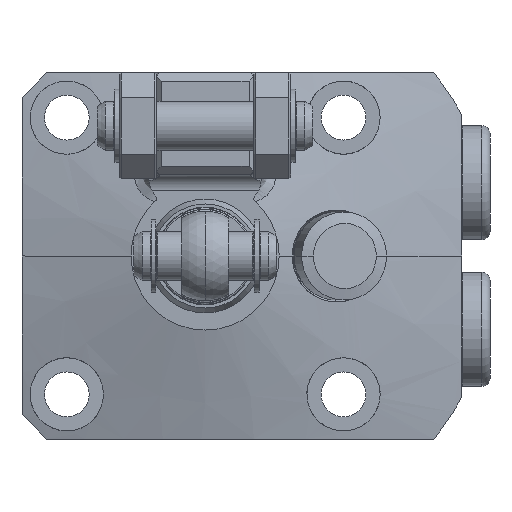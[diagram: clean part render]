
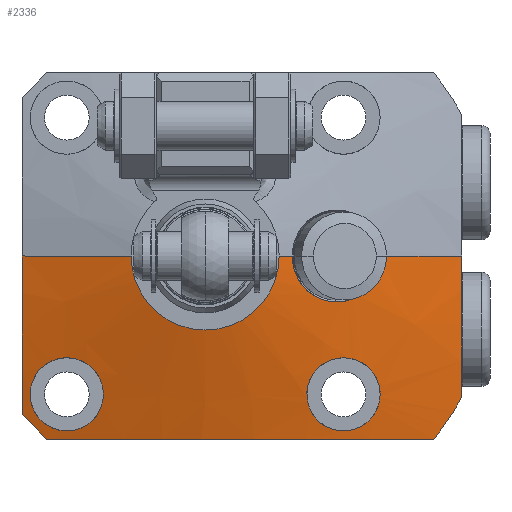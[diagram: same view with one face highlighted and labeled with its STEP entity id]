
A CAD part, left-side view. The second image highlights one B-rep face of the part: STEP entity #2336.
In plain terms, the highlighted conical face has half-angle 75 degrees and reference radius 36.259 mm.
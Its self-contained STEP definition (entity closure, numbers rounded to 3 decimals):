
#1729=FACE_BOUND('',#3142,.T.);
#1730=FACE_BOUND('',#3143,.T.);
#1731=FACE_BOUND('',#3144,.T.);
#1785=B_SPLINE_CURVE_WITH_KNOTS('',3,(#11554,#11555,#11556,#11557,#11558,
#11559),.UNSPECIFIED.,.F.,.F.,(4,2,4),(0.,0.5,1.),.UNSPECIFIED.);
#1787=B_SPLINE_CURVE_WITH_KNOTS('',3,(#11651,#11652,#11653,#11654,#11655,
#11656,#11657,#11658,#11659,#11660),.UNSPECIFIED.,.F.,.F.,(4,2,2,2,4),(0.,
0.25,0.5,0.75,1.),.UNSPECIFIED.);
#1788=B_SPLINE_CURVE_WITH_KNOTS('',3,(#11669,#11670,#11671,#11672,#11673,
#11674,#11675,#11676,#11677,#11678),.UNSPECIFIED.,.F.,.F.,(4,2,2,2,4),(0.,
0.25,0.5,0.75,1.),.UNSPECIFIED.);
#1791=B_SPLINE_CURVE_WITH_KNOTS('',3,(#11838,#11839,#11840,#11841,#11842,
#11843,#11844,#11845,#11846,#11847),.UNSPECIFIED.,.F.,.F.,(4,2,2,2,4),(0.,
0.25,0.5,0.75,1.),.UNSPECIFIED.);
#1792=B_SPLINE_CURVE_WITH_KNOTS('',3,(#11848,#11849,#11850,#11851,#11852,
#11853,#11854,#11855,#11856,#11857),.UNSPECIFIED.,.F.,.F.,(4,2,2,2,4),(0.,
0.25,0.5,0.75,1.),.UNSPECIFIED.);
#1793=B_SPLINE_CURVE_WITH_KNOTS('',3,(#11863,#11864,#11865,#11866),
 .UNSPECIFIED.,.F.,.F.,(4,4),(0.,1.),.UNSPECIFIED.);
#1794=B_SPLINE_CURVE_WITH_KNOTS('',3,(#11868,#11869,#11870,#11871),
 .UNSPECIFIED.,.F.,.F.,(4,4),(0.,1.),.UNSPECIFIED.);
#1795=B_SPLINE_CURVE_WITH_KNOTS('',3,(#11873,#11874,#11875,#11876,#11877,
#11878,#11879,#11880),.UNSPECIFIED.,.F.,.F.,(4,2,2,4),(0.,0.5,0.75,1.),
 .UNSPECIFIED.);
#1796=B_SPLINE_CURVE_WITH_KNOTS('',3,(#11884,#11885,#11886,#11887),
 .UNSPECIFIED.,.F.,.F.,(4,4),(0.,1.),.UNSPECIFIED.);
#1797=B_SPLINE_CURVE_WITH_KNOTS('',3,(#11890,#11891,#11892,#11893,#11894,
#11895),.UNSPECIFIED.,.F.,.F.,(4,2,4),(0.,0.5,1.),.UNSPECIFIED.);
#2336=ADVANCED_FACE('',(#1729,#1730,#1731),#2481,.T.);
#2481=CONICAL_SURFACE('',#8091,36.259,75.);
#3142=EDGE_LOOP('',(#5102,#5103));
#3143=EDGE_LOOP('',(#5104,#5105));
#3144=EDGE_LOOP('',(#5106,#5107,#5108,#5109,#5110,#5111,#5112,#5113,#5114,
#5115,#5116));
#3533=LINE('',#11861,#3848);
#3534=LINE('',#11889,#3849);
#3535=LINE('',#11897,#3850);
#3848=VECTOR('',#9884,1.);
#3849=VECTOR('',#9887,1.);
#3850=VECTOR('',#9888,1.);
#5102=ORIENTED_EDGE('',*,*,#6776,.T.);
#5103=ORIENTED_EDGE('',*,*,#6705,.T.);
#5104=ORIENTED_EDGE('',*,*,#6777,.T.);
#5105=ORIENTED_EDGE('',*,*,#6709,.T.);
#5106=ORIENTED_EDGE('',*,*,#6778,.T.);
#5107=ORIENTED_EDGE('',*,*,#6779,.T.);
#5108=ORIENTED_EDGE('',*,*,#6780,.F.);
#5109=ORIENTED_EDGE('',*,*,#6781,.F.);
#5110=ORIENTED_EDGE('',*,*,#6782,.F.);
#5111=ORIENTED_EDGE('',*,*,#6783,.T.);
#5112=ORIENTED_EDGE('',*,*,#6784,.T.);
#5113=ORIENTED_EDGE('',*,*,#6785,.F.);
#5114=ORIENTED_EDGE('',*,*,#6664,.F.);
#5115=ORIENTED_EDGE('',*,*,#6786,.F.);
#5116=ORIENTED_EDGE('',*,*,#6787,.F.);
#5935=VERTEX_POINT('',#11553);
#5936=VERTEX_POINT('',#11560);
#5970=VERTEX_POINT('',#11661);
#5971=VERTEX_POINT('',#11662);
#5974=VERTEX_POINT('',#11679);
#5975=VERTEX_POINT('',#11680);
#6032=VERTEX_POINT('',#11859);
#6033=VERTEX_POINT('',#11860);
#6034=VERTEX_POINT('',#11862);
#6035=VERTEX_POINT('',#11867);
#6036=VERTEX_POINT('',#11872);
#6037=VERTEX_POINT('',#11881);
#6038=VERTEX_POINT('',#11883);
#6039=VERTEX_POINT('',#11888);
#6040=VERTEX_POINT('',#11896);
#6664=EDGE_CURVE('',#5935,#5936,#1785,.T.);
#6705=EDGE_CURVE('',#5970,#5971,#1787,.T.);
#6709=EDGE_CURVE('',#5974,#5975,#1788,.T.);
#6776=EDGE_CURVE('',#5971,#5970,#1791,.T.);
#6777=EDGE_CURVE('',#5975,#5974,#1792,.T.);
#6778=EDGE_CURVE('',#6032,#6033,#7345,.T.);
#6779=EDGE_CURVE('',#6033,#6034,#3533,.T.);
#6780=EDGE_CURVE('',#6035,#6034,#1793,.T.);
#6781=EDGE_CURVE('',#6036,#6035,#1794,.T.);
#6782=EDGE_CURVE('',#6037,#6036,#1795,.T.);
#6783=EDGE_CURVE('',#6037,#6038,#7346,.T.);
#6784=EDGE_CURVE('',#6038,#6039,#1796,.T.);
#6785=EDGE_CURVE('',#5936,#6039,#3534,.T.);
#6786=EDGE_CURVE('',#6040,#5935,#1797,.T.);
#6787=EDGE_CURVE('',#6032,#6040,#3535,.T.);
#7345=CIRCLE('',#8089,9.098);
#7346=CIRCLE('',#8090,36.);
#8089=AXIS2_PLACEMENT_3D('',#11858,#9882,#9883);
#8090=AXIS2_PLACEMENT_3D('',#11882,#9885,#9886);
#8091=AXIS2_PLACEMENT_3D('',#11898,#9889,#9890);
#9882=DIRECTION('',(1.,0.,0.));
#9883=DIRECTION('',(0.,0.,1.));
#9884=DIRECTION('',(0.259,0.966,0.));
#9885=DIRECTION('',(-1.,0.,0.));
#9886=DIRECTION('',(0.,1.,0.));
#9887=DIRECTION('',(0.259,-0.966,0.));
#9888=DIRECTION('',(0.259,-0.966,0.));
#9889=DIRECTION('',(1.,0.,0.));
#9890=DIRECTION('',(0.,-1.,0.));
#11553=CARTESIAN_POINT('',(-22.852,-16.154,-5.65));
#11554=CARTESIAN_POINT('',(-22.852,-16.154,-5.65));
#11555=CARTESIAN_POINT('',(-22.486,-17.601,-5.65));
#11556=CARTESIAN_POINT('',(-22.174,-19.028,-5.038));
#11557=CARTESIAN_POINT('',(-21.746,-21.071,-2.956));
#11558=CARTESIAN_POINT('',(-21.63,-21.676,-1.493));
#11559=CARTESIAN_POINT('',(-21.63,-21.676,0.));
#11560=CARTESIAN_POINT('',(-21.63,-21.676,0.));
#11651=CARTESIAN_POINT('',(-20.094,-17.,-21.5));
#11652=CARTESIAN_POINT('',(-20.292,-15.805,-21.5));
#11653=CARTESIAN_POINT('',(-20.574,-14.656,-21.012));
#11654=CARTESIAN_POINT('',(-21.183,-13.011,-19.382));
#11655=CARTESIAN_POINT('',(-21.513,-12.519,-18.237));
#11656=CARTESIAN_POINT('',(-22.023,-12.482,-15.906));
#11657=CARTESIAN_POINT('',(-22.198,-12.947,-14.706));
#11658=CARTESIAN_POINT('',(-22.205,-14.631,-12.99));
#11659=CARTESIAN_POINT('',(-22.039,-15.816,-12.5));
#11660=CARTESIAN_POINT('',(-21.784,-17.,-12.5));
#11661=CARTESIAN_POINT('',(-20.094,-17.,-21.5));
#11662=CARTESIAN_POINT('',(-21.784,-17.,-12.5));
#11669=CARTESIAN_POINT('',(-20.094,21.5,-17.));
#11670=CARTESIAN_POINT('',(-20.292,21.5,-15.805));
#11671=CARTESIAN_POINT('',(-20.574,21.012,-14.656));
#11672=CARTESIAN_POINT('',(-21.183,19.382,-13.011));
#11673=CARTESIAN_POINT('',(-21.513,18.237,-12.519));
#11674=CARTESIAN_POINT('',(-22.023,15.906,-12.482));
#11675=CARTESIAN_POINT('',(-22.198,14.706,-12.947));
#11676=CARTESIAN_POINT('',(-22.205,12.99,-14.631));
#11677=CARTESIAN_POINT('',(-22.039,12.5,-15.816));
#11678=CARTESIAN_POINT('',(-21.784,12.5,-17.));
#11679=CARTESIAN_POINT('',(-20.094,21.5,-17.));
#11680=CARTESIAN_POINT('',(-21.784,12.5,-17.));
#11838=CARTESIAN_POINT('',(-21.784,-17.,-12.5));
#11839=CARTESIAN_POINT('',(-21.529,-18.182,-12.5));
#11840=CARTESIAN_POINT('',(-21.203,-19.318,-12.973));
#11841=CARTESIAN_POINT('',(-20.593,-20.972,-14.589));
#11842=CARTESIAN_POINT('',(-20.307,-21.477,-15.74));
#11843=CARTESIAN_POINT('',(-19.909,-21.522,-18.088));
#11844=CARTESIAN_POINT('',(-19.793,-21.054,-19.292));
#11845=CARTESIAN_POINT('',(-19.787,-19.377,-21.005));
#11846=CARTESIAN_POINT('',(-19.895,-18.193,-21.5));
#11847=CARTESIAN_POINT('',(-20.094,-17.,-21.5));
#11848=CARTESIAN_POINT('',(-21.784,12.5,-17.));
#11849=CARTESIAN_POINT('',(-21.529,12.5,-18.182));
#11850=CARTESIAN_POINT('',(-21.203,12.973,-19.318));
#11851=CARTESIAN_POINT('',(-20.593,14.589,-20.972));
#11852=CARTESIAN_POINT('',(-20.307,15.74,-21.477));
#11853=CARTESIAN_POINT('',(-19.909,18.088,-21.522));
#11854=CARTESIAN_POINT('',(-19.793,19.292,-21.054));
#11855=CARTESIAN_POINT('',(-19.787,21.005,-19.377));
#11856=CARTESIAN_POINT('',(-19.895,21.5,-18.193));
#11857=CARTESIAN_POINT('',(-20.094,21.5,-17.));
#11858=CARTESIAN_POINT('',(-25.,0.,0.));
#11859=CARTESIAN_POINT('',(-25.,-9.098,0.));
#11860=CARTESIAN_POINT('',(-25.,9.098,0.));
#11861=CARTESIAN_POINT('',(-17.722,36.259,0.));
#11862=CARTESIAN_POINT('',(-21.409,22.5,0.));
#11863=CARTESIAN_POINT('',(-19.46,22.5,-19.5));
#11864=CARTESIAN_POINT('',(-20.592,22.5,-13.048));
#11865=CARTESIAN_POINT('',(-21.409,22.5,-6.565));
#11866=CARTESIAN_POINT('',(-21.409,22.5,0.));
#11867=CARTESIAN_POINT('',(-19.46,22.5,-19.5));
#11868=CARTESIAN_POINT('',(-19.46,19.5,-22.5));
#11869=CARTESIAN_POINT('',(-19.487,20.5,-21.5));
#11870=CARTESIAN_POINT('',(-19.487,21.5,-20.5));
#11871=CARTESIAN_POINT('',(-19.46,22.5,-19.5));
#11872=CARTESIAN_POINT('',(-19.46,19.5,-22.5));
#11873=CARTESIAN_POINT('',(-17.792,-28.102,-22.5));
#11874=CARTESIAN_POINT('',(-19.43,-20.269,-22.5));
#11875=CARTESIAN_POINT('',(-20.875,-12.419,-22.5));
#11876=CARTESIAN_POINT('',(-21.498,-0.509,-22.5));
#11877=CARTESIAN_POINT('',(-21.423,3.485,-22.5));
#11878=CARTESIAN_POINT('',(-20.742,11.52,-22.5));
#11879=CARTESIAN_POINT('',(-20.158,15.522,-22.5));
#11880=CARTESIAN_POINT('',(-19.46,19.5,-22.5));
#11881=CARTESIAN_POINT('',(-17.792,-28.102,-22.5));
#11882=CARTESIAN_POINT('',(-17.792,0.,0.));
#11883=CARTESIAN_POINT('',(-17.792,-31.5,-17.428));
#11884=CARTESIAN_POINT('',(-17.792,-31.5,-17.428));
#11885=CARTESIAN_POINT('',(-18.542,-31.5,-11.643));
#11886=CARTESIAN_POINT('',(-18.997,-31.5,-5.837));
#11887=CARTESIAN_POINT('',(-18.997,-31.5,0.));
#11888=CARTESIAN_POINT('',(-18.997,-31.5,0.));
#11889=CARTESIAN_POINT('',(-17.722,-36.259,0.));
#11890=CARTESIAN_POINT('',(-24.555,-10.761,0.));
#11891=CARTESIAN_POINT('',(-24.555,-10.761,-1.493));
#11892=CARTESIAN_POINT('',(-24.307,-11.328,-2.951));
#11893=CARTESIAN_POINT('',(-23.631,-13.302,-5.035));
#11894=CARTESIAN_POINT('',(-23.218,-14.706,-5.65));
#11895=CARTESIAN_POINT('',(-22.852,-16.154,-5.65));
#11896=CARTESIAN_POINT('',(-24.555,-10.761,0.));
#11897=CARTESIAN_POINT('',(-17.722,-36.259,0.));
#11898=CARTESIAN_POINT('',(-17.722,0.,0.));
